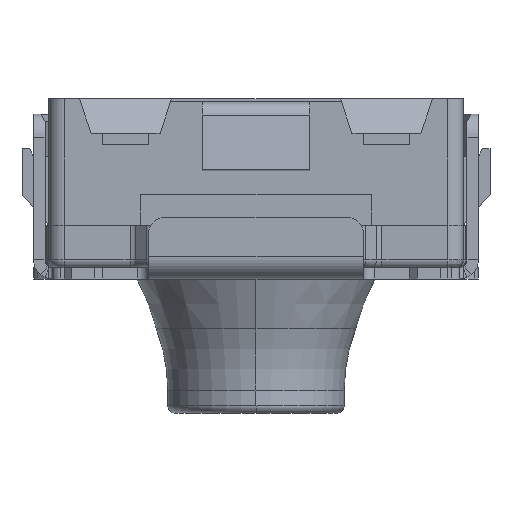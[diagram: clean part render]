
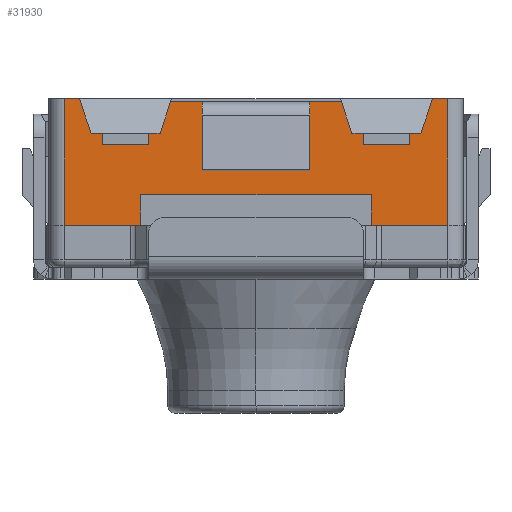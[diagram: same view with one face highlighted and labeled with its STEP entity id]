
A CAD part, left-side view. The second image highlights one B-rep face of the part: STEP entity #31930.
In plain terms, the highlighted planar face has unit normal (1, 0, 0).
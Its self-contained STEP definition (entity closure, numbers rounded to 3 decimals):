
#23182=DIRECTION('',(0.,0.,1.));
#23183=VECTOR('',#23182,0.15);
#23184=CARTESIAN_POINT('',(-3.,-2.,0.));
#23185=LINE('',#23184,#23183);
#23203=DIRECTION('',(0.,0.,1.));
#23204=VECTOR('',#23203,0.15);
#23205=CARTESIAN_POINT('',(-3.,-1.4,0.));
#23206=LINE('',#23205,#23204);
#23210=DIRECTION('',(0.,1.,0.));
#23211=VECTOR('',#23210,0.15);
#23212=CARTESIAN_POINT('',(-3.,-1.4,0.15));
#23213=LINE('',#23212,#23211);
#23217=DIRECTION('',(0.,0.316,0.949));
#23218=VECTOR('',#23217,0.432);
#23219=CARTESIAN_POINT('',(-3.,-1.25,0.15));
#23220=LINE('',#23219,#23218);
#23224=DIRECTION('',(0.,0.316,-0.949));
#23225=VECTOR('',#23224,0.432);
#23226=CARTESIAN_POINT('',(-3.,1.113,0.56));
#23227=LINE('',#23226,#23225);
#23231=DIRECTION('',(0.,0.316,0.949));
#23232=VECTOR('',#23231,0.474);
#23233=CARTESIAN_POINT('',(-3.,2.15,0.15));
#23234=LINE('',#23233,#23232);
#23238=DIRECTION('',(0.,1.,0.));
#23239=VECTOR('',#23238,0.2);
#23240=CARTESIAN_POINT('',(-3.,2.3,0.6));
#23241=LINE('',#23240,#23239);
#23245=DIRECTION('',(0.,1.,0.));
#23246=VECTOR('',#23245,0.2);
#23247=CARTESIAN_POINT('',(-3.,-2.5,0.6));
#23248=LINE('',#23247,#23246);
#23252=DIRECTION('',(0.,0.316,-0.949));
#23253=VECTOR('',#23252,0.474);
#23254=CARTESIAN_POINT('',(-3.,-2.3,0.6));
#23255=LINE('',#23254,#23253);
#23259=DIRECTION('',(0.,1.,0.));
#23260=VECTOR('',#23259,0.15);
#23261=CARTESIAN_POINT('',(-3.,-2.15,0.15));
#23262=LINE('',#23261,#23260);
#23266=DIRECTION('',(0.,-1.,0.));
#23267=VECTOR('',#23266,0.6);
#23268=CARTESIAN_POINT('',(-3.,-1.4,0.));
#23269=LINE('',#23268,#23267);
#24930=DIRECTION('',(0.,-1.,0.));
#24931=VECTOR('',#24930,0.6);
#24932=CARTESIAN_POINT('',(-3.,2.,0.));
#24933=LINE('',#24932,#24931);
#25075=DIRECTION('',(0.,0.,1.));
#25076=VECTOR('',#25075,0.15);
#25077=CARTESIAN_POINT('',(-3.,1.4,0.));
#25078=LINE('',#25077,#25076);
#25103=DIRECTION('',(0.,1.,0.));
#25104=VECTOR('',#25103,0.15);
#25105=CARTESIAN_POINT('',(-3.,1.25,0.15));
#25106=LINE('',#25105,#25104);
#25131=DIRECTION('',(0.,1.,0.));
#25132=VECTOR('',#25131,2.227);
#25133=CARTESIAN_POINT('',(-3.,-1.113,0.56));
#25134=LINE('',#25133,#25132);
#26102=DIRECTION('',(0.,1.,0.));
#26103=VECTOR('',#26102,1.);
#26104=CARTESIAN_POINT('',(-3.,-2.5,-1.05));
#26105=LINE('',#26104,#26103);
#26109=DIRECTION('',(0.,1.,0.));
#26110=VECTOR('',#26109,1.);
#26111=CARTESIAN_POINT('',(-3.,1.5,-1.05));
#26112=LINE('',#26111,#26110);
#26616=DIRECTION('',(0.,0.,1.));
#26617=VECTOR('',#26616,1.65);
#26618=CARTESIAN_POINT('',(-3.,-2.5,-1.05));
#26619=LINE('',#26618,#26617);
#26910=DIRECTION('',(0.,0.,-1.));
#26911=VECTOR('',#26910,0.4);
#26912=CARTESIAN_POINT('',(-3.,-1.5,-0.65));
#26913=LINE('',#26912,#26911);
#26924=DIRECTION('',(0.,1.,0.));
#26925=VECTOR('',#26924,3.);
#26926=CARTESIAN_POINT('',(-3.,-1.5,-0.65));
#26927=LINE('',#26926,#26925);
#26952=DIRECTION('',(0.,0.,1.));
#26953=VECTOR('',#26952,0.4);
#26954=CARTESIAN_POINT('',(-3.,1.5,-1.05));
#26955=LINE('',#26954,#26953);
#26987=DIRECTION('',(0.,0.,-1.));
#26988=VECTOR('',#26987,1.65);
#26989=CARTESIAN_POINT('',(-3.,2.5,0.6));
#26990=LINE('',#26989,#26988);
#28333=DIRECTION('',(0.,0.,1.));
#28334=VECTOR('',#28333,0.155);
#28335=CARTESIAN_POINT('',(-3.,-0.7,0.403));
#28336=LINE('',#28335,#28334);
#28400=DIRECTION('',(0.,1.,0.));
#28401=VECTOR('',#28400,1.4);
#28402=CARTESIAN_POINT('',(-3.,-0.7,0.558));
#28403=LINE('',#28402,#28401);
#28414=DIRECTION('',(0.,0.,1.));
#28415=VECTOR('',#28414,0.155);
#28416=CARTESIAN_POINT('',(-3.,0.7,0.403));
#28417=LINE('',#28416,#28415);
#28481=DIRECTION('',(0.,1.,0.));
#28482=VECTOR('',#28481,1.4);
#28483=CARTESIAN_POINT('',(-3.,-0.7,0.403));
#28484=LINE('',#28483,#28482);
#29171=DIRECTION('',(0.,1.,0.));
#29172=VECTOR('',#29171,0.15);
#29173=CARTESIAN_POINT('',(-3.,2.,0.15));
#29174=LINE('',#29173,#29172);
#29192=DIRECTION('',(0.,0.,-1.));
#29193=VECTOR('',#29192,0.15);
#29194=CARTESIAN_POINT('',(-3.,2.,0.15));
#29195=LINE('',#29194,#29193);
#29943=CARTESIAN_POINT('',(-3.,2.5,0.6));
#29944=VERTEX_POINT('',#29943);
#29945=CARTESIAN_POINT('',(-3.,2.3,0.6));
#29946=VERTEX_POINT('',#29945);
#29959=CARTESIAN_POINT('',(-3.,-2.3,0.6));
#29960=VERTEX_POINT('',#29959);
#29961=CARTESIAN_POINT('',(-3.,-2.5,0.6));
#29962=VERTEX_POINT('',#29961);
#30359=CARTESIAN_POINT('',(-3.,-1.4,0.15));
#30360=VERTEX_POINT('',#30359);
#30361=CARTESIAN_POINT('',(-3.,-1.25,0.15));
#30362=VERTEX_POINT('',#30361);
#30363=CARTESIAN_POINT('',(-3.,-2.,0.15));
#30365=VERTEX_POINT('',#30363);
#30367=CARTESIAN_POINT('',(-3.,-2.15,0.15));
#30368=VERTEX_POINT('',#30367);
#30369=CARTESIAN_POINT('',(-3.,-1.4,0.));
#30370=VERTEX_POINT('',#30369);
#30373=CARTESIAN_POINT('',(-3.,-2.,0.));
#30374=VERTEX_POINT('',#30373);
#30375=CARTESIAN_POINT('',(-3.,-2.5,-1.05));
#30376=VERTEX_POINT('',#30375);
#30377=CARTESIAN_POINT('',(-3.,-1.5,-1.05));
#30378=VERTEX_POINT('',#30377);
#30379=CARTESIAN_POINT('',(-3.,-1.5,-0.65));
#30380=VERTEX_POINT('',#30379);
#30381=CARTESIAN_POINT('',(-3.,1.5,-0.65));
#30382=VERTEX_POINT('',#30381);
#30383=CARTESIAN_POINT('',(-3.,1.5,-1.05));
#30384=VERTEX_POINT('',#30383);
#30385=CARTESIAN_POINT('',(-3.,2.5,-1.05));
#30386=VERTEX_POINT('',#30385);
#30387=CARTESIAN_POINT('',(-3.,2.15,0.15));
#30388=VERTEX_POINT('',#30387);
#30389=CARTESIAN_POINT('',(-3.,2.,0.15));
#30390=VERTEX_POINT('',#30389);
#30391=CARTESIAN_POINT('',(-3.,2.,0.));
#30392=VERTEX_POINT('',#30391);
#30393=CARTESIAN_POINT('',(-3.,1.4,0.));
#30394=CARTESIAN_POINT('',(-3.,1.4,0.15));
#30395=VERTEX_POINT('',#30393);
#30396=VERTEX_POINT('',#30394);
#30397=CARTESIAN_POINT('',(-3.,1.25,0.15));
#30398=VERTEX_POINT('',#30397);
#30399=CARTESIAN_POINT('',(-3.,1.113,0.56));
#30400=VERTEX_POINT('',#30399);
#30401=CARTESIAN_POINT('',(-3.,-1.113,0.56));
#30402=VERTEX_POINT('',#30401);
#30403=CARTESIAN_POINT('',(-3.,0.7,0.403));
#30404=CARTESIAN_POINT('',(-3.,0.7,0.558));
#30405=VERTEX_POINT('',#30403);
#30406=VERTEX_POINT('',#30404);
#30407=CARTESIAN_POINT('',(-3.,-0.7,0.403));
#30408=VERTEX_POINT('',#30407);
#30409=CARTESIAN_POINT('',(-3.,-0.7,0.558));
#30410=VERTEX_POINT('',#30409);
#31869=CARTESIAN_POINT('',(-3.,0.,-0.225));
#31870=DIRECTION('',(1.,0.,0.));
#31871=DIRECTION('',(0.,1.,0.));
#31872=AXIS2_PLACEMENT_3D('',#31869,#31870,#31871);
#31873=PLANE('',#31872);
#31875=ORIENTED_EDGE('',*,*,#31874,.F.);
#31877=ORIENTED_EDGE('',*,*,#31876,.T.);
#31879=ORIENTED_EDGE('',*,*,#31878,.T.);
#31881=ORIENTED_EDGE('',*,*,#31880,.T.);
#31883=ORIENTED_EDGE('',*,*,#31882,.T.);
#31885=ORIENTED_EDGE('',*,*,#31884,.T.);
#31887=ORIENTED_EDGE('',*,*,#31886,.T.);
#31889=ORIENTED_EDGE('',*,*,#31888,.F.);
#31891=ORIENTED_EDGE('',*,*,#31890,.F.);
#31893=ORIENTED_EDGE('',*,*,#31892,.F.);
#31895=ORIENTED_EDGE('',*,*,#31894,.T.);
#31897=ORIENTED_EDGE('',*,*,#31896,.T.);
#31898=ORIENTED_EDGE('',*,*,#31330,.T.);
#31900=ORIENTED_EDGE('',*,*,#31899,.T.);
#31902=ORIENTED_EDGE('',*,*,#31901,.F.);
#31904=ORIENTED_EDGE('',*,*,#31903,.T.);
#31906=ORIENTED_EDGE('',*,*,#31905,.F.);
#31908=ORIENTED_EDGE('',*,*,#31907,.T.);
#31910=ORIENTED_EDGE('',*,*,#31909,.F.);
#31912=ORIENTED_EDGE('',*,*,#31911,.T.);
#31913=ORIENTED_EDGE('',*,*,#31346,.T.);
#31915=ORIENTED_EDGE('',*,*,#31914,.T.);
#31916=ORIENTED_EDGE('',*,*,#31844,.T.);
#31917=ORIENTED_EDGE('',*,*,#31859,.F.);
#31918=EDGE_LOOP('',(#31875,#31877,#31879,#31881,#31883,#31885,#31887,#31889,
#31891,#31893,#31895,#31897,#31898,#31900,#31902,#31904,#31906,#31908,#31910,
#31912,#31913,#31915,#31916,#31917));
#31919=FACE_OUTER_BOUND('',#31918,.F.);
#31921=ORIENTED_EDGE('',*,*,#31920,.T.);
#31923=ORIENTED_EDGE('',*,*,#31922,.F.);
#31925=ORIENTED_EDGE('',*,*,#31924,.F.);
#31927=ORIENTED_EDGE('',*,*,#31926,.T.);
#31928=EDGE_LOOP('',(#31921,#31923,#31925,#31927));
#31929=FACE_BOUND('',#31928,.F.);
#31330=EDGE_CURVE('',#29946,#29944,#23241,.T.);
#31346=EDGE_CURVE('',#29962,#29960,#23248,.T.);
#31844=EDGE_CURVE('',#30368,#30365,#23262,.T.);
#31859=EDGE_CURVE('',#30374,#30365,#23185,.T.);
#31874=EDGE_CURVE('',#30370,#30374,#23269,.T.);
#31876=EDGE_CURVE('',#30370,#30360,#23206,.T.);
#31878=EDGE_CURVE('',#30360,#30362,#23213,.T.);
#31880=EDGE_CURVE('',#30362,#30402,#23220,.T.);
#31882=EDGE_CURVE('',#30402,#30400,#25134,.T.);
#31884=EDGE_CURVE('',#30400,#30398,#23227,.T.);
#31886=EDGE_CURVE('',#30398,#30396,#25106,.T.);
#31888=EDGE_CURVE('',#30395,#30396,#25078,.T.);
#31890=EDGE_CURVE('',#30392,#30395,#24933,.T.);
#31892=EDGE_CURVE('',#30390,#30392,#29195,.T.);
#31894=EDGE_CURVE('',#30390,#30388,#29174,.T.);
#31896=EDGE_CURVE('',#30388,#29946,#23234,.T.);
#31899=EDGE_CURVE('',#29944,#30386,#26990,.T.);
#31901=EDGE_CURVE('',#30384,#30386,#26112,.T.);
#31903=EDGE_CURVE('',#30384,#30382,#26955,.T.);
#31905=EDGE_CURVE('',#30380,#30382,#26927,.T.);
#31907=EDGE_CURVE('',#30380,#30378,#26913,.T.);
#31909=EDGE_CURVE('',#30376,#30378,#26105,.T.);
#31911=EDGE_CURVE('',#30376,#29962,#26619,.T.);
#31914=EDGE_CURVE('',#29960,#30368,#23255,.T.);
#31920=EDGE_CURVE('',#30405,#30406,#28417,.T.);
#31922=EDGE_CURVE('',#30410,#30406,#28403,.T.);
#31924=EDGE_CURVE('',#30408,#30410,#28336,.T.);
#31926=EDGE_CURVE('',#30408,#30405,#28484,.T.);
#31930=ADVANCED_FACE('',(#31919,#31929),#31873,.T.);
